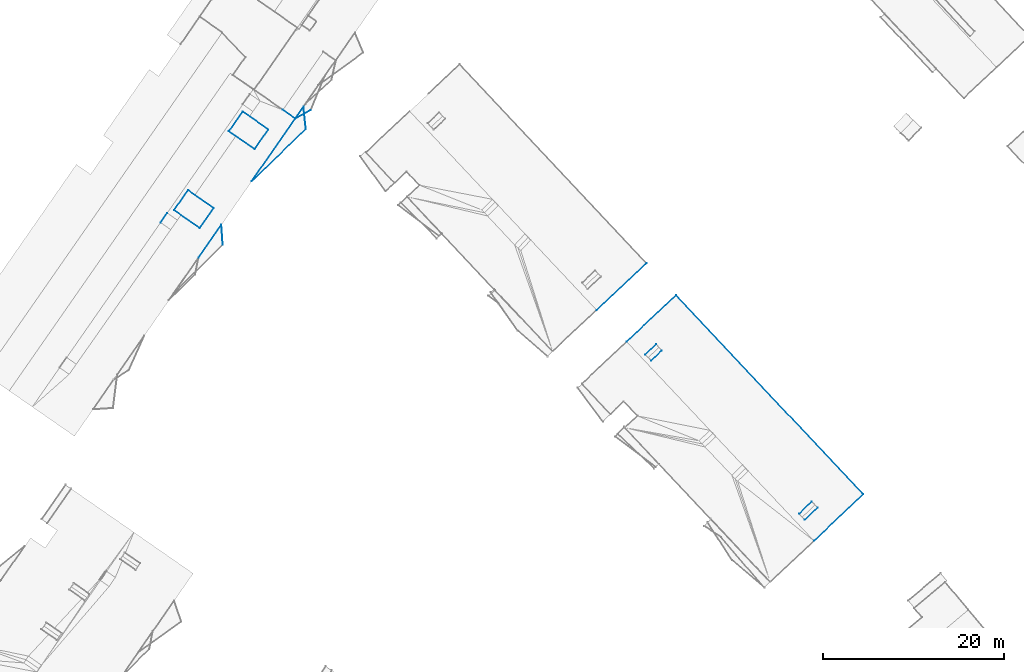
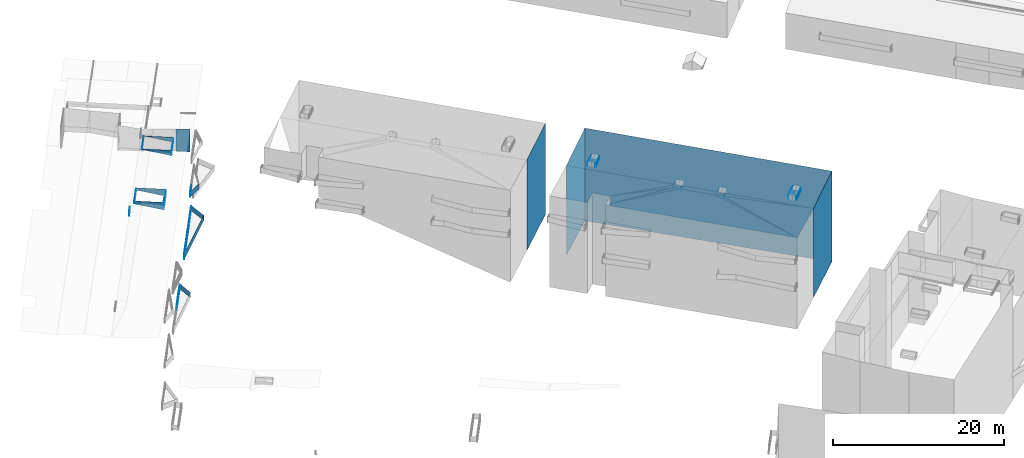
# Not in any storey, part 51 of 136: 31 walls.
"""IFC4 building model written with IfcOpenShell, lengths in metres."""

from ifc_helpers import new_model, entity, si_unit, converted_unit, origin, place, context, subcontext, project, spatial, face_set, surface_model, element, save


model = new_model("IFC4")

# Units and contexts
model_context = context("Model", 3, precision=1e-05, world=origin())
body_context = subcontext(model_context, "Body", "Model", "MODEL_VIEW")
ifc_project = project(units=[converted_unit("PLANEANGLEUNIT", "DEGREE", entity("IfcRatioMeasure", 0.0174532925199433), si_unit("PLANEANGLEUNIT", "RADIAN"), dimensions=[0, 0, 0, 0, 0, 0, 0]), si_unit("AREAUNIT", "SQUARE_METRE"), si_unit("LENGTHUNIT", "METRE")], contexts=[model_context])

# Site, building
site_placement = place(None, origin())
site = spatial("IfcSite", under=ifc_project, at=site_placement, Name="_site")
building_1_placement = place(site_placement, origin())
building_1 = spatial("IfcBuilding", under=site, at=building_1_placement, Name="_building")

# Walls
wall_1_placement = place(building_1_placement, origin())
element("IfcWall", 1, at=wall_1_placement, inside=building_1, Name="Wall", PredefinedType="NOTDEFINED", context=body_context, shape_type="SurfaceModel", body=[
    surface_model("IfcFaceBasedSurfaceModel", [(43.33, 92.23, 51.54), (44.73, 93.59, 51.54), (44.73, 93.59, 50.908), (43.33, 92.23, 50.822)], [face_set([[[0, 1, 2, 3]]])]),
])
wall_2_placement = place(building_1_placement, origin())
element("IfcWall", 2, at=wall_2_placement, inside=building_1, Name="Wall", PredefinedType="NOTDEFINED", context=body_context, shape_type="SurfaceModel", body=[
    surface_model("IfcFaceBasedSurfaceModel", [(28.2, 110.26, 51.49), (27.02, 109.14, 51.49), (27.02, 109.14, 50.822), (28.2, 110.26, 50.893)], [face_set([[[0, 1, 2, 3]]])]),
])
wall_3_placement = place(building_1_placement, origin())
element("IfcWall", 3, at=wall_3_placement, inside=building_1, Name="Wall", PredefinedType="NOTDEFINED", context=body_context, shape_type="SurfaceModel", body=[
    surface_model("IfcFaceBasedSurfaceModel", [(26.38, 109.82, 51.47), (27.56, 110.94, 51.47), (27.56, 110.94, 50.894), (26.38, 109.82, 50.822)], [face_set([[[0, 1, 2, 3]]])]),
])
wall_4_placement = place(building_1_placement, origin())
element("IfcWall", 4, at=wall_4_placement, inside=building_1, Name="Wall", PredefinedType="NOTDEFINED", context=body_context, shape_type="SurfaceModel", body=[
    surface_model("IfcFaceBasedSurfaceModel", [(50.43, 94.4, 51.09), (44.98, 89.26, 50.8), (44.98, 89.26, 38.068), (50.43, 94.4, 38.124)], [face_set([[[0, 1, 2, 3]]])]),
])
wall_5_placement = place(building_1_placement, origin())
element("IfcWall", 5, at=wall_5_placement, inside=building_1, Name="Wall", PredefinedType="NOTDEFINED", context=body_context, shape_type="SurfaceModel", body=[
    surface_model("IfcFaceBasedSurfaceModel", [(29.77, 116.36, 51.15), (50.43, 94.4, 51.09), (50.43, 94.4, 38.124), (29.77, 116.36, 37.912)], [face_set([[[0, 1, 2, 3]]])]),
])
wall_6_placement = place(building_1_placement, origin())
element("IfcWall", 6, at=wall_6_placement, inside=building_1, Name="Wall", PredefinedType="NOTDEFINED", context=body_context, shape_type="SurfaceModel", body=[
    surface_model("IfcFaceBasedSurfaceModel", [(24.31, 111.23, 50.8), (29.77, 116.36, 51.15), (29.77, 116.36, 37.912), (24.31, 111.23, 37.968)], [face_set([[[0, 1, 2, 3]]])]),
])
wall_7_placement = place(building_1_placement, origin())
element("IfcWall", 7, at=wall_7_placement, inside=building_1, Name="Wall", PredefinedType="NOTDEFINED", context=body_context, shape_type="SurfaceModel", body=[
    surface_model("IfcFaceBasedSurfaceModel", [(45.38, 92.93, 51.48), (43.98, 91.57, 51.48), (43.98, 91.57, 50.823), (45.38, 92.93, 50.908)], [face_set([[[0, 1, 2, 3]]])]),
])

# Building
building_2_placement = place(site_placement, origin())
building_2 = spatial("IfcBuilding", under=site, at=building_2_placement, Name="_building")

# Wall
wall_8_placement = place(building_2_placement, origin())
element("IfcWall", 8, at=wall_8_placement, inside=building_2, Name="Wall", PredefinedType="NOTDEFINED", context=body_context, shape_type="SurfaceModel", body=[
    surface_model("IfcFaceBasedSurfaceModel", [(26.5, 119.91, 50.83), (20.99, 114.73, 50.65), (20.99, 114.73, 37.701), (26.5, 119.91, 37.779)], [face_set([[[0, 1, 2, 3]]])]),
])

# Building
building_3_placement = place(site_placement, origin())
building_3 = spatial("IfcBuilding", under=site, at=building_3_placement, Name="_building")

# Walls
wall_9_placement = place(building_3_placement, origin())
element("IfcWall", 9, at=wall_9_placement, inside=building_3, Name="Wall", PredefinedType="NOTDEFINED", context=body_context, shape_type="SurfaceModel", body=[
    surface_model("IfcFaceBasedSurfaceModel", [(-12.24, 135.84, 44.17), (-11.34, 137.15, 44.17), (-11.34, 137.15, 44.92), (-12.24, 135.84, 44.92)], [face_set([[[0, 1, 2, 3]]])]),
])
wall_10_placement = place(building_3_placement, origin())
element("IfcWall", 10, at=wall_10_placement, inside=building_3, Name="Wall", PredefinedType="NOTDEFINED", context=body_context, shape_type="SurfaceModel", body=[
    surface_model("IfcFaceBasedSurfaceModel", [(-11.08, 134.68, 41.15), (-17.06, 128.92, 41.15), (-17.06, 128.92, 41.9), (-11.08, 134.68, 41.9)], [face_set([[[0, 1, 2, 3]]])]),
])
wall_11_placement = place(building_3_placement, origin())
element("IfcWall", 11, at=wall_11_placement, inside=building_3, Name="Wall", PredefinedType="NOTDEFINED", context=body_context, shape_type="SurfaceModel", body=[
    surface_model("IfcFaceBasedSurfaceModel", [(-11.34, 137.15, 41.15), (-11.08, 134.68, 41.15), (-11.08, 134.68, 41.9), (-11.34, 137.15, 41.9)], [face_set([[[0, 1, 2, 3]]])]),
])
wall_12_placement = place(building_3_placement, origin())
element("IfcWall", 12, at=wall_12_placement, inside=building_3, Name="Wall", PredefinedType="NOTDEFINED", context=body_context, shape_type="SurfaceModel", body=[
    surface_model("IfcFaceBasedSurfaceModel", [(-17.06, 128.92, 41.15), (-11.34, 137.15, 41.15), (-11.34, 137.15, 41.9), (-17.06, 128.92, 41.9)], [face_set([[[0, 1, 2, 3]]])]),
])
wall_13_placement = place(building_3_placement, origin())
element("IfcWall", 13, at=wall_13_placement, inside=building_3, Name="Wall", PredefinedType="NOTDEFINED", context=body_context, shape_type="SurfaceModel", body=[
    surface_model("IfcFaceBasedSurfaceModel", [(-11.08, 134.68, 41.15), (-17.06, 128.92, 41.15), (-17.06, 128.92, 41.9), (-11.08, 134.68, 41.9)], [face_set([[[0, 1, 2, 3]]])]),
])
wall_14_placement = place(building_3_placement, origin())
element("IfcWall", 14, at=wall_14_placement, inside=building_3, Name="Wall", PredefinedType="NOTDEFINED", context=body_context, shape_type="SurfaceModel", body=[
    surface_model("IfcFaceBasedSurfaceModel", [(-11.34, 137.15, 41.15), (-11.08, 134.68, 41.15), (-11.08, 134.68, 41.9), (-11.34, 137.15, 41.9)], [face_set([[[0, 1, 2, 3]]])]),
])
wall_15_placement = place(building_3_placement, origin())
element("IfcWall", 15, at=wall_15_placement, inside=building_3, Name="Wall", PredefinedType="NOTDEFINED", context=body_context, shape_type="SurfaceModel", body=[
    surface_model("IfcFaceBasedSurfaceModel", [(-17.06, 128.92, 41.15), (-11.34, 137.15, 41.15), (-11.34, 137.15, 41.9), (-17.06, 128.92, 41.9)], [face_set([[[0, 1, 2, 3]]])]),
])
wall_16_placement = place(building_3_placement, origin())
element("IfcWall", 16, at=wall_16_placement, inside=building_3, Name="Wall", PredefinedType="NOTDEFINED", context=body_context, shape_type="SurfaceModel", body=[
    surface_model("IfcFaceBasedSurfaceModel", [(-20.4, 124.12, 41.07), (-20.25, 121.92, 41.07), (-20.25, 121.92, 41.82), (-20.4, 124.12, 41.82)], [face_set([[[0, 1, 2, 3]]])]),
])
wall_17_placement = place(building_3_placement, origin())
element("IfcWall", 17, at=wall_17_placement, inside=building_3, Name="Wall", PredefinedType="NOTDEFINED", context=body_context, shape_type="SurfaceModel", body=[
    surface_model("IfcFaceBasedSurfaceModel", [(-22.92, 120.5, 41.07), (-20.4, 124.12, 41.07), (-20.4, 124.12, 41.82), (-22.92, 120.5, 41.82)], [face_set([[[0, 1, 2, 3]]])]),
])
wall_18_placement = place(building_3_placement, origin())
element("IfcWall", 18, at=wall_18_placement, inside=building_3, Name="Wall", PredefinedType="NOTDEFINED", context=body_context, shape_type="SurfaceModel", body=[
    surface_model("IfcFaceBasedSurfaceModel", [(-20.4, 124.12, 41.07), (-20.25, 121.92, 41.07), (-20.25, 121.92, 41.82), (-20.4, 124.12, 41.82)], [face_set([[[0, 1, 2, 3]]])]),
])
wall_19_placement = place(building_3_placement, origin())
element("IfcWall", 19, at=wall_19_placement, inside=building_3, Name="Wall", PredefinedType="NOTDEFINED", context=body_context, shape_type="SurfaceModel", body=[
    surface_model("IfcFaceBasedSurfaceModel", [(-22.92, 120.5, 41.07), (-20.4, 124.12, 41.07), (-20.4, 124.12, 41.82), (-22.92, 120.5, 41.82)], [face_set([[[0, 1, 2, 3]]])]),
])
wall_20_placement = place(building_3_placement, origin())
element("IfcWall", 20, at=wall_20_placement, inside=building_3, Name="Wall", PredefinedType="NOTDEFINED", context=body_context, shape_type="SurfaceModel", body=[
    surface_model("IfcFaceBasedSurfaceModel", [(-27.11, 124.38, 54.2), (-26.373, 125.432, 54.2), (-26.373, 125.432, 53.58), (-27.11, 124.38, 53.58)], [face_set([[[0, 1, 2, 3]]])]),
])
wall_21_placement = place(building_3_placement, origin())
element("IfcWall", 21, at=wall_21_placement, inside=building_3, Name="Wall", PredefinedType="NOTDEFINED", context=body_context, shape_type="SurfaceModel", body=[
    surface_model("IfcFaceBasedSurfaceModel", [(-22.79, 123.76, 54.46), (-25.62, 125.73, 54.46), (-25.62, 125.73, 54.025), (-22.79, 123.76, 53.384)], [face_set([[[0, 1, 2, 3]]])]),
])
wall_22_placement = place(building_3_placement, origin())
element("IfcWall", 22, at=wall_22_placement, inside=building_3, Name="Wall", PredefinedType="NOTDEFINED", context=body_context, shape_type="SurfaceModel", body=[
    surface_model("IfcFaceBasedSurfaceModel", [(-18.05, 136.61, 54.46), (-15.22, 134.64, 54.46), (-15.22, 134.64, 53.813), (-18.05, 136.61, 54.455)], [face_set([[[0, 1, 2, 3]]])]),
])
wall_23_placement = place(building_3_placement, origin())
element("IfcWall", 23, at=wall_23_placement, inside=building_3, Name="Wall", PredefinedType="NOTDEFINED", context=body_context, shape_type="SurfaceModel", body=[
    surface_model("IfcFaceBasedSurfaceModel", [(-19.57, 134.43, 54.46), (-18.05, 136.61, 54.46), (-18.05, 136.61, 54.455), (-19.57, 134.43, 54.369)], [face_set([[[0, 1, 2, 3]]])]),
])
wall_24_placement = place(building_3_placement, origin())
element("IfcWall", 24, at=wall_24_placement, inside=building_3, Name="Wall", PredefinedType="NOTDEFINED", context=body_context, shape_type="SurfaceModel", body=[
    surface_model("IfcFaceBasedSurfaceModel", [(-13.62, 136.8, 53.826), (-12.24, 135.84, 53.93), (-12.24, 135.84, 50.64), (-13.62, 136.8, 50.64)], [face_set([[[0, 1, 2, 3]]])]),
])
wall_25_placement = place(building_3_placement, origin())
element("IfcWall", 25, at=wall_25_placement, inside=building_3, Name="Wall", PredefinedType="NOTDEFINED", context=body_context, shape_type="SurfaceModel", body=[
    surface_model("IfcFaceBasedSurfaceModel", [(-10.54, 136.79, 44.17), (-12.24, 135.84, 44.17), (-12.24, 135.84, 44.92), (-10.54, 136.79, 44.92)], [face_set([[[0, 1, 2, 3]]])]),
])
wall_26_placement = place(building_3_placement, origin())
element("IfcWall", 26, at=wall_26_placement, inside=building_3, Name="Wall", PredefinedType="NOTDEFINED", context=body_context, shape_type="SurfaceModel", body=[
    surface_model("IfcFaceBasedSurfaceModel", [(-12.24, 135.84, 44.17), (-11.34, 137.15, 44.17), (-11.34, 137.15, 44.92), (-12.24, 135.84, 44.92)], [face_set([[[0, 1, 2, 3]]])]),
])
wall_27_placement = place(building_3_placement, origin())
element("IfcWall", 27, at=wall_27_placement, inside=building_3, Name="Wall", PredefinedType="NOTDEFINED", context=body_context, shape_type="SurfaceModel", body=[
    surface_model("IfcFaceBasedSurfaceModel", [(-16.73, 132.46, 54.46), (-19.57, 134.43, 54.46), (-19.57, 134.43, 54.369), (-16.73, 132.46, 53.726)], [face_set([[[0, 1, 2, 3]]])]),
])
wall_28_placement = place(building_3_placement, origin())
element("IfcWall", 28, at=wall_28_placement, inside=building_3, Name="Wall", PredefinedType="NOTDEFINED", context=body_context, shape_type="SurfaceModel", body=[
    surface_model("IfcFaceBasedSurfaceModel", [(-25.62, 125.73, 54.46), (-24.08, 127.94, 54.46), (-24.08, 127.94, 54.112), (-25.62, 125.73, 54.025)], [face_set([[[0, 1, 2, 3]]])]),
])
wall_29_placement = place(building_3_placement, origin())
element("IfcWall", 29, at=wall_29_placement, inside=building_3, Name="Wall", PredefinedType="NOTDEFINED", context=body_context, shape_type="SurfaceModel", body=[
    surface_model("IfcFaceBasedSurfaceModel", [(-21.25, 125.96, 54.46), (-22.79, 123.76, 54.46), (-22.79, 123.76, 53.384), (-21.25, 125.96, 53.469)], [face_set([[[0, 1, 2, 3]]])]),
])
wall_30_placement = place(building_3_placement, origin())
element("IfcWall", 30, at=wall_30_placement, inside=building_3, Name="Wall", PredefinedType="NOTDEFINED", context=body_context, shape_type="SurfaceModel", body=[
    surface_model("IfcFaceBasedSurfaceModel", [(-24.08, 127.94, 54.46), (-21.25, 125.96, 54.46), (-21.25, 125.96, 53.469), (-24.08, 127.94, 54.112)], [face_set([[[0, 1, 2, 3]]])]),
])
wall_31_placement = place(building_3_placement, origin())
element("IfcWall", 31, at=wall_31_placement, inside=building_3, Name="Wall", PredefinedType="NOTDEFINED", context=body_context, shape_type="SurfaceModel", body=[
    surface_model("IfcFaceBasedSurfaceModel", [(-15.22, 134.64, 54.46), (-16.73, 132.46, 54.46), (-16.73, 132.46, 53.726), (-15.22, 134.64, 53.813)], [face_set([[[0, 1, 2, 3]]])]),
])

save(model, "model.ifc")
